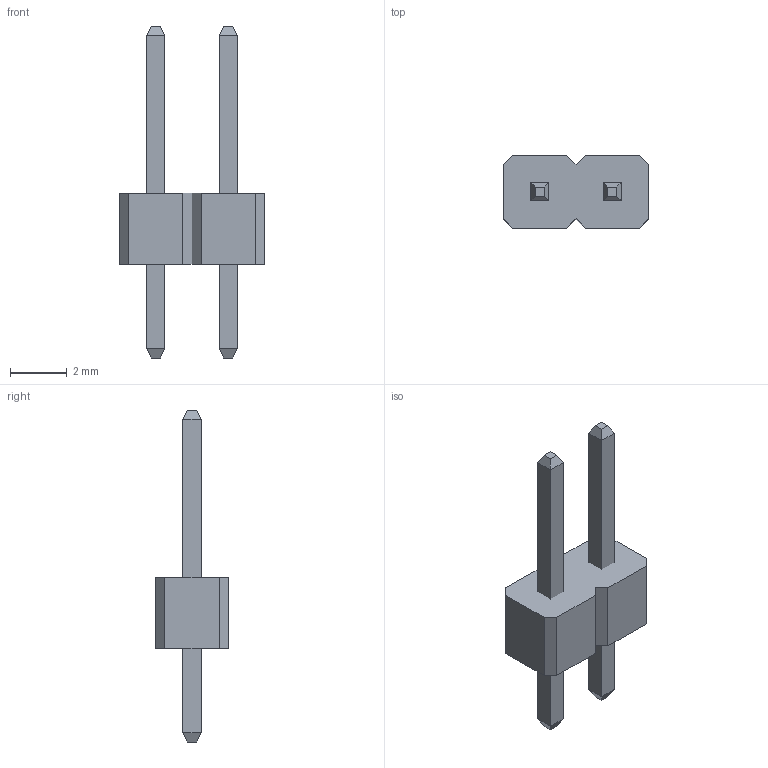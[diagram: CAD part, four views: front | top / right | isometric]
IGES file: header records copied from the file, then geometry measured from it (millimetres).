
Start section: Data from Parasolid IGES Translator 23.1.110, Copyright(c) 2006 Siemens PLM Software. All Rights Reserved.
Global section: file name: 5f3dd451933f190f816bc990.iges; native system: By Siemens PLM Incorporated; preprocessor: XPlus GENERIC/IGES 23.1.110; author: Noname; organization: Noname; date: 20200820.013930; units: metre
Bounding box: 5.08 x 2.54 x 11.68 mm (x, y, z)
Surface area: 123.9 mm2 (no closed solid volume)
Topology: 0 solids, 0 shells, 56 faces, 244 edges, 244 vertices
Faces by surface type: extrusion 56
